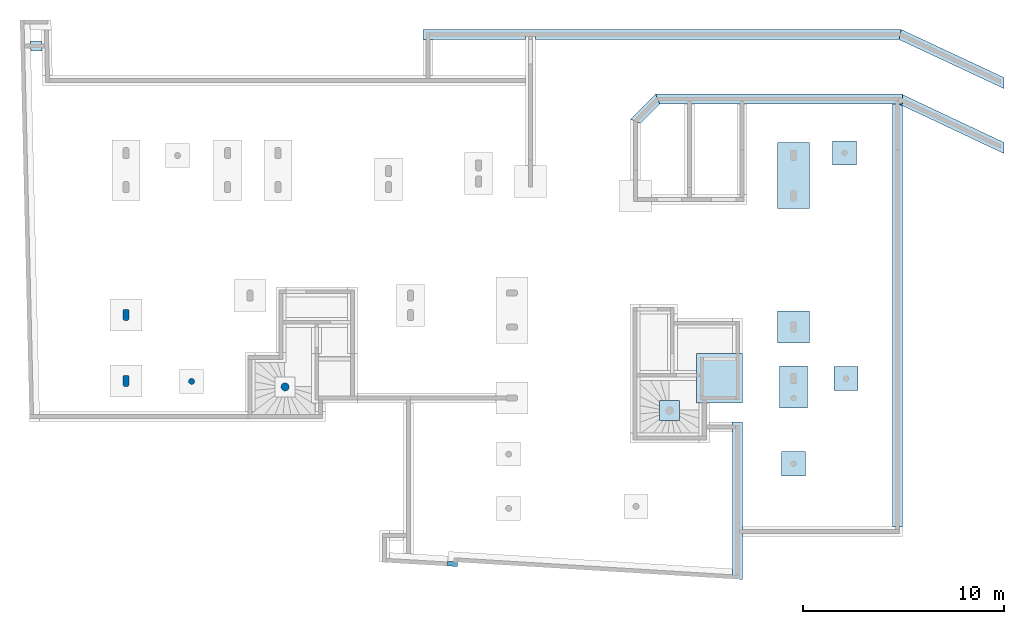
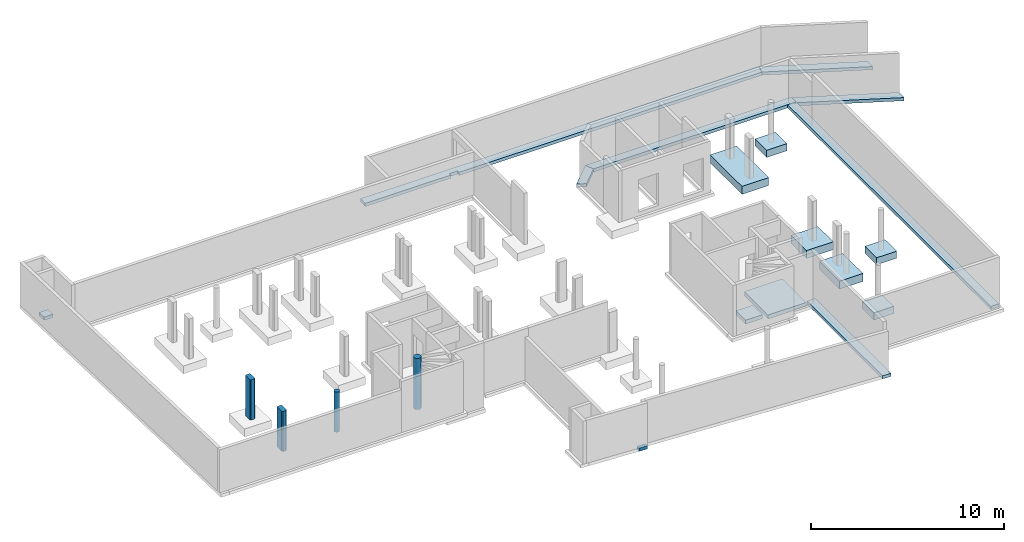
# One storey, part 2 of 6: 17 footings, 4 columns.
"""IFC2X3 building model written with IfcOpenShell, lengths in millimetres."""

from ifc_helpers import new_model, entity, si_unit, converted_unit, frame, frame_2d, origin, origin_with_axes, place, context, subcontext, project, spatial, polyline, circle, outline, extrude, faceted_brep, material, element, save


model = new_model("IFC2X3")

# Units and contexts
model_context = context("Model", 3, precision=1e-05, world=origin())
body_context = subcontext(model_context, "Body", "Model", "MODEL_VIEW")
ifc_project = project(units=[si_unit("LENGTHUNIT", "METRE", prefix="MILLI"), converted_unit("PLANEANGLEUNIT", "DEGREE", entity("IfcPlaneAngleMeasure", 0.0174532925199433), si_unit("PLANEANGLEUNIT", "RADIAN"), dimensions=[0, 0, 0, 0, 0, 0, 0]), si_unit("AREAUNIT", "SQUARE_METRE"), si_unit("VOLUMEUNIT", "CUBIC_METRE")], contexts=[model_context])

# Site, building, storey
site_placement = place(None, origin())
site = spatial("IfcSite", under=ifc_project, at=site_placement, Name="Propriété", CompositionType="ELEMENT")
building_placement = place(site_placement, origin_with_axes())
building = spatial("IfcBuilding", under=site, at=building_placement, Name="Bâtiment", CompositionType="ELEMENT")
storey_placement = place(building_placement, frame((0.0, 0.0, -3300.0), z_axis=(0.0, 0.0, 1.0), x_axis=(1.0, 0.0, 0.0)))
storey = spatial("IfcBuildingStorey", under=building, at=storey_placement, Name="Sous-sol", CompositionType="ELEMENT", Elevation=-3300.0)

# Footings
ifc_material_1 = material(Name="<Unnamed Material>")
footing_1_placement = place(storey_placement, frame((33200.57775641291, 881.9198747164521, -500.0100000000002), z_axis=(0.0, 0.0, 1.0), x_axis=(1.0, 0.0, 0.0)))
element("IfcFooting", 1, at=footing_1_placement, inside=storey, material=ifc_material_1, Name="<Unnamed Element>", PredefinedType="NOTDEFINED", context=body_context, shape_type="Brep", body=[
    faceted_brep([(0.01000000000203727, 2100.01, 0.01000000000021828), (0.01000000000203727, 0.009999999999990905, 0.01000000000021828), (1400.010000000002, 0.009999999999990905, 0.01000000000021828), (1400.010000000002, 2100.01, 0.01000000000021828), (0.01000000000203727, 0.009999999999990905, 500.0100000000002), (0.01000000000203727, 2100.01, 500.0100000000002), (1400.010000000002, 2100.01, 500.0100000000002), (1400.010000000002, 0.009999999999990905, 500.0100000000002), (0.01000000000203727, 0.009999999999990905, 0.01000000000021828), (0.01000000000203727, 2100.01, 0.01000000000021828), (0.01000000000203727, 2100.01, 500.0100000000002), (0.01000000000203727, 0.009999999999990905, 500.0100000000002), (1400.010000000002, 0.009999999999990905, 0.01000000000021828), (0.01000000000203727, 0.009999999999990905, 0.01000000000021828), (0.01000000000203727, 0.009999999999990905, 500.0100000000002), (1400.010000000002, 0.009999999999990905, 500.0100000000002), (1400.010000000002, 2100.01, 0.01000000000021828), (1400.010000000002, 0.009999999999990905, 0.01000000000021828), (1400.010000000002, 0.009999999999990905, 500.0100000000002), (1400.010000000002, 2100.01, 500.0100000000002), (0.01000000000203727, 2100.01, 0.01000000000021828), (1400.010000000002, 2100.01, 0.01000000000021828), (1400.010000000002, 2100.01, 500.0100000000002), (0.01000000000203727, 2100.01, 500.0100000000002)], [[[0, 1, 2, 3]], [[4, 5, 6, 7]], [[8, 9, 10, 11]], [[12, 13, 14, 15]], [[16, 17, 18, 19]], [[20, 21, 22, 23]]], orient=[[False], [False], [False], [False], [False], [False]]),
])
ifc_material_2 = material(Name="<Unnamed Material>")
footing_2_placement = place(storey_placement, frame((35920.5777564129, 1754.41987471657, -450.0100000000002), z_axis=(0.0, 0.0, 1.0), x_axis=(1.0, 0.0, 0.0)))
element("IfcFooting", 2, at=footing_2_placement, inside=storey, material=ifc_material_2, Name="<Unnamed Element>", PredefinedType="NOTDEFINED", context=body_context, shape_type="Brep", body=[
    faceted_brep([(0.01000000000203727, 1200.01, 0.01000000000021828), (0.01000000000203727, 0.009999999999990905, 0.01000000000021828), (1200.010000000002, 0.009999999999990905, 0.01000000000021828), (1200.010000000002, 1200.01, 0.01000000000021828), (0.01000000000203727, 0.009999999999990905, 450.0100000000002), (0.01000000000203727, 1200.01, 450.0100000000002), (1200.010000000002, 1200.01, 450.0100000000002), (1200.010000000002, 0.009999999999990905, 450.0100000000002), (0.01000000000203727, 0.009999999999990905, 0.01000000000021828), (0.01000000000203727, 1200.01, 0.01000000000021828), (0.01000000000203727, 1200.01, 450.0100000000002), (0.01000000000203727, 0.009999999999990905, 450.0100000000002), (1200.010000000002, 0.009999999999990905, 0.01000000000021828), (0.01000000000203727, 0.009999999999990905, 0.01000000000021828), (0.01000000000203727, 0.009999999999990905, 450.0100000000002), (1200.010000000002, 0.009999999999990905, 450.0100000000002), (1200.010000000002, 1200.01, 0.01000000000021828), (1200.010000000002, 0.009999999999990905, 0.01000000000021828), (1200.010000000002, 0.009999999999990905, 450.0100000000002), (1200.010000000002, 1200.01, 450.0100000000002), (0.01000000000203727, 1200.01, 0.01000000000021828), (1200.010000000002, 1200.01, 0.01000000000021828), (1200.010000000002, 1200.01, 450.0100000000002), (0.01000000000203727, 1200.01, 450.0100000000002)], [[[0, 1, 2, 3]], [[4, 5, 6, 7]], [[8, 9, 10, 11]], [[12, 13, 14, 15]], [[16, 17, 18, 19]], [[20, 21, 22, 23]]], orient=[[False], [False], [False], [False], [False], [False]]),
])
ifc_material_3 = material(Name="<Unnamed Material>")
footing_3_placement = place(storey_placement, frame((33100.57775641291, 4129.419874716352, -500.0100000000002), z_axis=(0.0, 0.0, 1.0), x_axis=(1.0, 0.0, 0.0)))
element("IfcFooting", 3, at=footing_3_placement, inside=storey, material=ifc_material_3, Name="<Unnamed Element>", PredefinedType="NOTDEFINED", context=body_context, shape_type="Brep", body=[
    faceted_brep([(0.01000000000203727, 1600.01, 0.01000000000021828), (0.01000000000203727, 0.01000000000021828, 0.01000000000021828), (1600.010000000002, 0.01000000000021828, 0.01000000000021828), (1600.010000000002, 1600.01, 0.01000000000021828), (0.01000000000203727, 0.01000000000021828, 500.0100000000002), (0.01000000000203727, 1600.01, 500.0100000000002), (1600.010000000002, 1600.01, 500.0100000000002), (1600.010000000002, 0.01000000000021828, 500.0100000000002), (0.01000000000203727, 0.01000000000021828, 0.01000000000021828), (0.01000000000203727, 1600.01, 0.01000000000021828), (0.01000000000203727, 1600.01, 500.0100000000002), (0.01000000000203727, 0.01000000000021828, 500.0100000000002), (1600.010000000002, 0.01000000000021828, 0.01000000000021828), (0.01000000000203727, 0.01000000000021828, 0.01000000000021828), (0.01000000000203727, 0.01000000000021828, 500.0100000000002), (1600.010000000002, 0.01000000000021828, 500.0100000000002), (1600.010000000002, 1600.01, 0.01000000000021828), (1600.010000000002, 0.01000000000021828, 0.01000000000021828), (1600.010000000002, 0.01000000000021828, 500.0100000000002), (1600.010000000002, 1600.01, 500.0100000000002), (0.01000000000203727, 1600.01, 0.01000000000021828), (1600.010000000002, 1600.01, 0.01000000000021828), (1600.010000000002, 1600.01, 500.0100000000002), (0.01000000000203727, 1600.01, 500.0100000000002)], [[[0, 1, 2, 3]], [[4, 5, 6, 7]], [[8, 9, 10, 11]], [[12, 13, 14, 15]], [[16, 17, 18, 19]], [[20, 21, 22, 23]]], orient=[[False], [False], [False], [False], [False], [False]]),
])
ifc_material_4 = material(Name="<Unnamed Material>")
footing_4_placement = place(storey_placement, frame((33300.5777564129, -2490.580125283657, -450.0100000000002), z_axis=(0.0, 0.0, 1.0), x_axis=(1.0, 0.0, 0.0)))
element("IfcFooting", 4, at=footing_4_placement, inside=storey, material=ifc_material_4, Name="<Unnamed Element>", PredefinedType="NOTDEFINED", context=body_context, shape_type="Brep", body=[
    faceted_brep([(0.01000000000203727, 1200.01, 0.01000000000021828), (0.01000000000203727, 0.01000000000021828, 0.01000000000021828), (1200.010000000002, 0.01000000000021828, 0.01000000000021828), (1200.010000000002, 1200.01, 0.01000000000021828), (0.01000000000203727, 0.01000000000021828, 450.0100000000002), (0.01000000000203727, 1200.01, 450.0100000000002), (1200.010000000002, 1200.01, 450.0100000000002), (1200.010000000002, 0.01000000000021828, 450.0100000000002), (0.01000000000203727, 0.01000000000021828, 0.01000000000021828), (0.01000000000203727, 1200.01, 0.01000000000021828), (0.01000000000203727, 1200.01, 450.0100000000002), (0.01000000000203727, 0.01000000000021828, 450.0100000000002), (1200.010000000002, 0.01000000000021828, 0.01000000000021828), (0.01000000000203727, 0.01000000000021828, 0.01000000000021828), (0.01000000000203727, 0.01000000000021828, 450.0100000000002), (1200.010000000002, 0.01000000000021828, 450.0100000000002), (1200.010000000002, 1200.01, 0.01000000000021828), (1200.010000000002, 0.01000000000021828, 0.01000000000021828), (1200.010000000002, 0.01000000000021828, 450.0100000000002), (1200.010000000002, 1200.01, 450.0100000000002), (0.01000000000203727, 1200.01, 0.01000000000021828), (1200.010000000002, 1200.01, 0.01000000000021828), (1200.010000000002, 1200.01, 450.0100000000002), (0.01000000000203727, 1200.01, 450.0100000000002)], [[[0, 1, 2, 3]], [[4, 5, 6, 7]], [[8, 9, 10, 11]], [[12, 13, 14, 15]], [[16, 17, 18, 19]], [[20, 21, 22, 23]]], orient=[[False], [False], [False], [False], [False], [False]]),
])
ifc_material_5 = material(Name="<Unnamed Material>")
footing_5_placement = place(storey_placement, frame((35840.5777564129, 13004.41987471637, -450.0100000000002), z_axis=(0.0, 0.0, 1.0), x_axis=(1.0, 0.0, 0.0)))
element("IfcFooting", 5, at=footing_5_placement, inside=storey, material=ifc_material_5, Name="<Unnamed Element>", PredefinedType="NOTDEFINED", context=body_context, shape_type="Brep", body=[
    faceted_brep([(0.01000000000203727, 1200.01, 0.01000000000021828), (0.01000000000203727, 0.01000000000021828, 0.01000000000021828), (1200.010000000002, 0.01000000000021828, 0.01000000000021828), (1200.010000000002, 1200.01, 0.01000000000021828), (0.01000000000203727, 0.01000000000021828, 450.0100000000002), (0.01000000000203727, 1200.01, 450.0100000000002), (1200.010000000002, 1200.01, 450.0100000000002), (1200.010000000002, 0.01000000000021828, 450.0100000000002), (0.01000000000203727, 0.01000000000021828, 0.01000000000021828), (0.01000000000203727, 1200.01, 0.01000000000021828), (0.01000000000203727, 1200.01, 450.0100000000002), (0.01000000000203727, 0.01000000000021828, 450.0100000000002), (1200.010000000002, 0.01000000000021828, 0.01000000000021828), (0.01000000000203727, 0.01000000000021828, 0.01000000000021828), (0.01000000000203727, 0.01000000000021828, 450.0100000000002), (1200.010000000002, 0.01000000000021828, 450.0100000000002), (1200.010000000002, 1200.01, 0.01000000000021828), (1200.010000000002, 0.01000000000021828, 0.01000000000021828), (1200.010000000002, 0.01000000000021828, 450.0100000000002), (1200.010000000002, 1200.01, 450.0100000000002), (0.01000000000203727, 1200.01, 0.01000000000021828), (1200.010000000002, 1200.01, 0.01000000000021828), (1200.010000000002, 1200.01, 450.0100000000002), (0.01000000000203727, 1200.01, 450.0100000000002)], [[[0, 1, 2, 3]], [[4, 5, 6, 7]], [[8, 9, 10, 11]], [[12, 13, 14, 15]], [[16, 17, 18, 19]], [[20, 21, 22, 23]]], orient=[[False], [False], [False], [False], [False], [False]]),
])
ifc_material_6 = material(Name="<Unnamed Material>")
footing_6_placement = place(storey_placement, frame((33100.57775641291, 10819.41987471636, -500.0100000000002), z_axis=(0.0, 0.0, 1.0), x_axis=(1.0, 0.0, 0.0)))
element("IfcFooting", 6, at=footing_6_placement, inside=storey, material=ifc_material_6, Name="<Unnamed Element>", PredefinedType="NOTDEFINED", context=body_context, shape_type="Brep", body=[
    faceted_brep([(0.01000000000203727, 3300.01, 0.01000000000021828), (0.01000000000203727, 0.01000000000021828, 0.01000000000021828), (1600.010000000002, 0.01000000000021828, 0.01000000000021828), (1600.010000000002, 3300.01, 0.01000000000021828), (0.01000000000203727, 0.01000000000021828, 500.0100000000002), (0.01000000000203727, 3300.01, 500.0100000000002), (1600.010000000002, 3300.01, 500.0100000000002), (1600.010000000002, 0.01000000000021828, 500.0100000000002), (0.01000000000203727, 0.01000000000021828, 0.01000000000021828), (0.01000000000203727, 3300.01, 0.01000000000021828), (0.01000000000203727, 3300.01, 500.0100000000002), (0.01000000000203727, 0.01000000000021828, 500.0100000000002), (1600.010000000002, 0.01000000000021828, 0.01000000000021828), (0.01000000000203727, 0.01000000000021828, 0.01000000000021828), (0.01000000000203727, 0.01000000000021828, 500.0100000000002), (1600.010000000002, 0.01000000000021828, 500.0100000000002), (1600.010000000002, 3300.01, 0.01000000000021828), (1600.010000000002, 0.01000000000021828, 0.01000000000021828), (1600.010000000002, 0.01000000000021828, 500.0100000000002), (1600.010000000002, 3300.01, 500.0100000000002), (0.01000000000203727, 3300.01, 0.01000000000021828), (1600.010000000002, 3300.01, 0.01000000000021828), (1600.010000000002, 3300.01, 500.0100000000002), (0.01000000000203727, 3300.01, 500.0100000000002)], [[[0, 1, 2, 3]], [[4, 5, 6, 7]], [[8, 9, 10, 11]], [[12, 13, 14, 15]], [[16, 17, 18, 19]], [[20, 21, 22, 23]]], orient=[[False], [False], [False], [False], [False], [False]]),
])
ifc_material_7 = material(Name="<Unnamed Material>")
footing_7_placement = place(storey_placement, frame((39157.25759679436, 19249.6396210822, -200.0), z_axis=(0.0, 0.0, 1.0), x_axis=(0.9059029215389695, -0.4234854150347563, 0.0)))
element("IfcFooting", 7, at=footing_7_placement, inside=storey, material=ifc_material_7, Name="<Unnamed Element>", PredefinedType="STRIP_FOOTING", context=body_context, shape_type="Brep", body=[
    faceted_brep([(-111.0983731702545, 500.0, 0.0), (0.0, 0.0, 0.0), (5775.792953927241, 0.0, 0.0), (5542.056311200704, 500.0, 0.0), (0.0, 0.0, 200.0), (-111.0983731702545, 500.0, 200.0), (5542.056311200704, 500.0, 200.0), (5775.792953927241, 0.0, 200.0), (0.0, 0.0, 0.0), (-111.0983731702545, 500.0, 0.0), (-111.0983731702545, 500.0, 200.0), (0.0, 0.0, 200.0), (5775.792953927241, 0.0, 0.0), (0.0, 0.0, 0.0), (0.0, 0.0, 200.0), (5775.792953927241, 0.0, 200.0), (5542.056311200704, 500.0, 0.0), (5775.792953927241, 0.0, 0.0), (5775.792953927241, 0.0, 200.0), (5542.056311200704, 500.0, 200.0), (-111.0983731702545, 500.0, 0.0), (5542.056311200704, 500.0, 0.0), (5542.056311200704, 500.0, 200.0), (-111.0983731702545, 500.0, 200.0)], [[[0, 1, 2, 3]], [[4, 5, 6, 7]], [[8, 9, 10, 11]], [[12, 13, 14, 15]], [[16, 17, 18, 19]], [[20, 21, 22, 23]]], orient=[[False], [False], [False], [False], [False], [False]]),
])
ifc_material_8 = material(Name="<Unnamed Material>")
footing_8_placement = place(storey_placement, frame((15430.58775641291, 19249.63931329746, -200.0), z_axis=(0.0, 0.0, 1.0), x_axis=(0.9999999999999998, 1.297210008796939e-08, 0.0)))
element("IfcFooting", 8, at=footing_8_placement, inside=storey, material=ifc_material_8, Name="<Unnamed Element>", PredefinedType="STRIP_FOOTING", context=body_context, shape_type="Brep", body=[
    faceted_brep([(5620.000001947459, 150.1265870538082, 0.0), (5620.000000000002, 0.0, 0.0), (23726.66984038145, 0.0, 0.0), (23837.76821355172, 499.9999999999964, 0.0), (6.486050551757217e-06, 500.0, 0.0), (0.0, 0.0, 0.0), (5120.000000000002, 0.0, 0.0), (5120.000001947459, 150.1265935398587, 0.0), (5620.000000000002, 0.0, 200.0), (5620.000001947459, 150.1265870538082, 200.0), (5120.000001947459, 150.1265935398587, 200.0), (5120.000000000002, 0.0, 200.0), (0.0, 0.0, 200.0), (6.486050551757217e-06, 500.0, 200.0), (23837.76821355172, 499.9999999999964, 200.0), (23726.66984038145, 0.0, 200.0), (5620.000000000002, 0.0, 0.0), (5620.000001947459, 150.1265870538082, 0.0), (5620.000001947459, 150.1265870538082, 200.0), (5620.000000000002, 0.0, 200.0), (23726.66984038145, 0.0, 0.0), (5620.000000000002, 0.0, 0.0), (5620.000000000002, 0.0, 200.0), (23726.66984038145, 0.0, 200.0), (23837.76821355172, 499.9999999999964, 0.0), (23726.66984038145, 0.0, 0.0), (23726.66984038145, 0.0, 200.0), (23837.76821355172, 499.9999999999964, 200.0), (6.486050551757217e-06, 500.0, 0.0), (23837.76821355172, 499.9999999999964, 0.0), (23837.76821355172, 499.9999999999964, 200.0), (6.486050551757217e-06, 500.0, 200.0), (0.0, 0.0, 0.0), (6.486050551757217e-06, 500.0, 0.0), (6.486050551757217e-06, 500.0, 200.0), (0.0, 0.0, 200.0), (5120.000000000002, 0.0, 0.0), (0.0, 0.0, 0.0), (0.0, 0.0, 200.0), (5120.000000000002, 0.0, 200.0), (5120.000001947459, 150.1265935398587, 0.0), (5120.000000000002, 0.0, 0.0), (5120.000000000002, 0.0, 200.0), (5120.000001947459, 150.1265935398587, 200.0), (5620.000001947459, 150.1265870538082, 0.0), (5120.000001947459, 150.1265935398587, 0.0), (5120.000001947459, 150.1265935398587, 200.0), (5620.000001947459, 150.1265870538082, 200.0)], [[[0, 1, 2, 3, 4, 5, 6, 7]], [[8, 9, 10, 11, 12, 13, 14, 15]], [[16, 17, 18, 19]], [[20, 21, 22, 23]], [[24, 25, 26, 27]], [[28, 29, 30, 31]], [[32, 33, 34, 35]], [[36, 37, 38, 39]], [[40, 41, 42, 43]], [[44, 45, 46, 47]]], orient=[[False], [False], [False], [False], [False], [False], [False], [False], [False], [False]]),
])
ifc_material_9 = material(Name="<Unnamed Material>")
footing_9_placement = place(storey_placement, frame((29070.57775641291, 1134.419874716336, -1100.01), z_axis=(0.0, 0.0, 1.0), x_axis=(1.0, 0.0, 0.0)))
element("IfcFooting", 9, at=footing_9_placement, inside=storey, material=ifc_material_9, Name="<Unnamed Element>", PredefinedType="NOTDEFINED", context=body_context, shape_type="Brep", body=[
    faceted_brep([(0.00999999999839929, 2464.451494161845, 0.01000000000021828), (0.00999999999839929, 0.01000000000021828, 0.01000000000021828), (2290.009999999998, 0.01000000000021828, 0.01000000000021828), (2290.009999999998, 2464.451494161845, 0.01000000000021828), (0.00999999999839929, 0.01000000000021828, 250.0100000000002), (0.00999999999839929, 2464.451494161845, 250.0100000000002), (2290.009999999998, 2464.451494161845, 250.0100000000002), (2290.009999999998, 0.01000000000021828, 250.0100000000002), (0.00999999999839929, 0.01000000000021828, 0.01000000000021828), (0.00999999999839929, 2464.451494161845, 0.01000000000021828), (0.00999999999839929, 2464.451494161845, 250.0100000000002), (0.00999999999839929, 0.01000000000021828, 250.0100000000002), (2290.009999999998, 0.01000000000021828, 0.01000000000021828), (0.00999999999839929, 0.01000000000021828, 0.01000000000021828), (0.00999999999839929, 0.01000000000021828, 250.0100000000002), (2290.009999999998, 0.01000000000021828, 250.0100000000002), (2290.009999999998, 2464.451494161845, 0.01000000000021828), (2290.009999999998, 0.01000000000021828, 0.01000000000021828), (2290.009999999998, 0.01000000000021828, 250.0100000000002), (2290.009999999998, 2464.451494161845, 250.0100000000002), (0.00999999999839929, 2464.451494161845, 0.01000000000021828), (2290.009999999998, 2464.451494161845, 0.01000000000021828), (2290.009999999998, 2464.451494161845, 250.0100000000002), (0.00999999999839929, 2464.451494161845, 250.0100000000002)], [[[0, 1, 2, 3]], [[4, 5, 6, 7]], [[8, 9, 10, 11]], [[12, 13, 14, 15]], [[16, 17, 18, 19]], [[20, 21, 22, 23]]], orient=[[False], [False], [False], [False], [False], [False]]),
])
ifc_material_10 = material(Name="<Unnamed Material>")
footing_10_placement = place(storey_placement, frame((30850.58775641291, 184.4298747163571, -200.0), z_axis=(0.0, 0.0, 1.0), x_axis=(0.0, -1.0, 0.0)))
element("IfcFooting", 10, at=footing_10_placement, inside=storey, material=ifc_material_10, Name="<Unnamed Element>", PredefinedType="STRIP_FOOTING", context=body_context, shape_type="Brep", body=[
    faceted_brep([(6.821210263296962e-13, 500.0, 0.0), (0.0, 0.0, 0.0), (7810.695102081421, 0.0, 0.0), (7841.230592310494, 500.0, 0.0), (0.0, 0.0, 200.0), (6.821210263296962e-13, 500.0, 200.0), (7841.230592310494, 500.0, 200.0), (7810.695102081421, 0.0, 200.0), (0.0, 0.0, 0.0), (6.821210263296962e-13, 500.0, 0.0), (6.821210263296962e-13, 500.0, 200.0), (0.0, 0.0, 200.0), (7810.695102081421, 0.0, 0.0), (0.0, 0.0, 0.0), (0.0, 0.0, 200.0), (7810.695102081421, 0.0, 200.0), (7841.230592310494, 500.0, 0.0), (7810.695102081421, 0.0, 0.0), (7810.695102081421, 0.0, 200.0), (7841.230592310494, 500.0, 200.0), (6.821210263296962e-13, 500.0, 0.0), (7841.230592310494, 500.0, 0.0), (7841.230592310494, 500.0, 200.0), (6.821210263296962e-13, 500.0, 200.0)], [[[0, 1, 2, 3]], [[4, 5, 6, 7]], [[8, 9, 10, 11]], [[12, 13, 14, 15]], [[16, 17, 18, 19]], [[20, 21, 22, 23]]], orient=[[False], [False], [False], [False], [False], [False]]),
])
ifc_material_11 = material(Name="<Unnamed Material>")
footing_11_placement = place(storey_placement, frame((17150.03176965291, -7016.173644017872, -200.0), z_axis=(0.0, 0.0, 1.0), x_axis=(0.05844308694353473, 0.9982907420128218, 0.0)))
element("IfcFooting", 11, at=footing_11_placement, inside=storey, material=ifc_material_11, Name="<Unnamed Element>", PredefinedType="STRIP_FOOTING", context=body_context, shape_type="Brep", body=[
    faceted_brep([(-9.094947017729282e-13, 500.0, 0.0), (0.0, 0.0, 0.0), (226.1941009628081, 0.0, 0.0), (227.4535122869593, 500.0, 0.0), (0.0, 0.0, 200.0), (-9.094947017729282e-13, 500.0, 200.0), (227.4535122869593, 500.0, 200.0), (226.1941009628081, 0.0, 200.0), (0.0, 0.0, 0.0), (-9.094947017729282e-13, 500.0, 0.0), (-9.094947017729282e-13, 500.0, 200.0), (0.0, 0.0, 200.0), (226.1941009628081, 0.0, 0.0), (0.0, 0.0, 0.0), (0.0, 0.0, 200.0), (226.1941009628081, 0.0, 200.0), (227.4535122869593, 500.0, 0.0), (226.1941009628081, 0.0, 0.0), (226.1941009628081, 0.0, 200.0), (227.4535122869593, 500.0, 200.0), (-9.094947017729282e-13, 500.0, 0.0), (227.4535122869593, 500.0, 0.0), (227.4535122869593, 500.0, 200.0), (-9.094947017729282e-13, 500.0, 200.0)], [[[0, 1, 2, 3]], [[4, 5, 6, 7]], [[8, 9, 10, 11]], [[12, 13, 14, 15]], [[16, 17, 18, 19]], [[20, 21, 22, 23]]], orient=[[False], [False], [False], [False], [False], [False]]),
])
ifc_material_12 = material(Name="<Unnamed Material>")
footing_12_placement = place(storey_placement, frame((39340.58775641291, 16534.42987471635, -200.0), z_axis=(0.0, 0.0, 1.0), x_axis=(-0.9999999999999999, 2.954109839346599e-16, 0.0)))
element("IfcFooting", 12, at=footing_12_placement, inside=storey, material=ifc_material_12, Name="<Unnamed Element>", PredefinedType="STRIP_FOOTING", context=body_context, shape_type="Brep", body=[
    faceted_brep([(0.0, 499.9999999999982, 0.0), (0.0, 0.0, 0.0), (12314.97474683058, 0.0, 0.0), (12107.86796564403, 499.9999999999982, 0.0), (0.0, 0.0, 200.0), (0.0, 499.9999999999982, 200.0), (12107.86796564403, 499.9999999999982, 200.0), (12314.97474683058, 0.0, 200.0), (0.0, 0.0, 0.0), (0.0, 499.9999999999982, 0.0), (0.0, 499.9999999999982, 200.0), (0.0, 0.0, 200.0), (12314.97474683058, 0.0, 0.0), (0.0, 0.0, 0.0), (0.0, 0.0, 200.0), (12314.97474683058, 0.0, 200.0), (12107.86796564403, 499.9999999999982, 0.0), (12314.97474683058, 0.0, 0.0), (12314.97474683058, 0.0, 200.0), (12107.86796564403, 499.9999999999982, 200.0), (0.0, 499.9999999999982, 0.0), (12107.86796564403, 499.9999999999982, 0.0), (12107.86796564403, 499.9999999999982, 200.0), (0.0, 499.9999999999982, 200.0)], [[[0, 1, 2, 3]], [[4, 5, 6, 7]], [[8, 9, 10, 11]], [[12, 13, 14, 15]], [[16, 17, 18, 19]], [[20, 21, 22, 23]]], orient=[[False], [False], [False], [False], [False], [False]]),
])
ifc_material_13 = material(Name="<Unnamed Material>")
footing_13_placement = place(storey_placement, frame((39340.58775641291, -5015.570125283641, -200.0), z_axis=(0.0, 0.0, 1.0), x_axis=(0.0, 1.0, 0.0)))
element("IfcFooting", 13, at=footing_13_placement, inside=storey, material=ifc_material_13, Name="<Unnamed Element>", PredefinedType="STRIP_FOOTING", context=body_context, shape_type="Brep", body=[
    faceted_brep([(0.0, 500.0, 0.0), (0.0, 0.0, 0.0), (20963.41886110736, 0.0, 0.0), (21049.99999999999, 183.594941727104, 0.0), (21049.99999999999, 500.0, 0.0), (0.0, 0.0, 200.0), (0.0, 500.0, 200.0), (21049.99999999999, 500.0, 200.0), (21049.99999999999, 183.594941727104, 200.0), (20963.41886110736, 0.0, 200.0), (0.0, 0.0, 0.0), (0.0, 500.0, 0.0), (0.0, 500.0, 200.0), (0.0, 0.0, 200.0), (20963.41886110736, 0.0, 0.0), (0.0, 0.0, 0.0), (0.0, 0.0, 200.0), (20963.41886110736, 0.0, 200.0), (21049.99999999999, 183.594941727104, 0.0), (20963.41886110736, 0.0, 0.0), (20963.41886110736, 0.0, 200.0), (21049.99999999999, 183.594941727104, 200.0), (21049.99999999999, 500.0, 0.0), (21049.99999999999, 183.594941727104, 0.0), (21049.99999999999, 183.594941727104, 200.0), (21049.99999999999, 500.0, 200.0), (0.0, 500.0, 0.0), (21049.99999999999, 500.0, 0.0), (21049.99999999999, 500.0, 200.0), (0.0, 500.0, 200.0)], [[[0, 1, 2, 3, 4]], [[5, 6, 7, 8, 9]], [[10, 11, 12, 13]], [[14, 15, 16, 17]], [[18, 19, 20, 21]], [[22, 23, 24, 25]], [[26, 27, 28, 29]]], orient=[[False], [False], [False], [False], [False], [False], [False]]),
])
ifc_material_14 = material(Name="<Unnamed Material>")
footing_14_placement = place(storey_placement, frame((27025.61300958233, 16534.42987471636, -200.0), z_axis=(0.0, 0.0, 1.0), x_axis=(-0.7071067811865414, -0.7071067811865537, 0.0)))
element("IfcFooting", 14, at=footing_14_placement, inside=storey, material=ifc_material_14, Name="<Unnamed Element>", PredefinedType="STRIP_FOOTING", context=body_context, shape_type="Brep", body=[
    faceted_brep([(207.1067811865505, 500.0, 0.0), (0.0, 0.0, 0.0), (1774.873734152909, 0.0, 0.0), (1567.766952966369, 500.0, 0.0), (0.0, 0.0, 200.0), (207.1067811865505, 500.0, 200.0), (1567.766952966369, 500.0, 200.0), (1774.873734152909, 0.0, 200.0), (0.0, 0.0, 0.0), (207.1067811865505, 500.0, 0.0), (207.1067811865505, 500.0, 200.0), (0.0, 0.0, 200.0), (1774.873734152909, 0.0, 0.0), (0.0, 0.0, 0.0), (0.0, 0.0, 200.0), (1774.873734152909, 0.0, 200.0), (1567.766952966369, 500.0, 0.0), (1774.873734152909, 0.0, 0.0), (1774.873734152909, 0.0, 200.0), (1567.766952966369, 500.0, 200.0), (207.1067811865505, 500.0, 0.0), (1567.766952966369, 500.0, 0.0), (1567.766952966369, 500.0, 200.0), (207.1067811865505, 500.0, 200.0)], [[[0, 1, 2, 3]], [[4, 5, 6, 7]], [[8, 9, 10, 11]], [[12, 13, 14, 15]], [[16, 17, 18, 19]], [[20, 21, 22, 23]]], orient=[[False], [False], [False], [False], [False], [False]]),
])
ifc_material_15 = material(Name="<Unnamed Material>")
footing_15_placement = place(storey_placement, frame((39156.99281468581, 16034.42987471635, -200.0), z_axis=(0.0, 0.0, 1.0), x_axis=(0.904470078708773, -0.4265370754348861, 0.0)))
element("IfcFooting", 15, at=footing_15_placement, inside=storey, material=ifc_material_15, Name="<Unnamed Element>", PredefinedType="STRIP_FOOTING", context=body_context, shape_type="Brep", body=[
    faceted_brep([(166.0561313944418, 78.31004950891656, 0.0), (0.0, 0.0, 0.0), (5785.235594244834, 0.0, 0.0), (5549.441682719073, 500.0000000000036, 0.0), (-32.80771436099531, 500.0, 0.0), (0.0, 0.0, 200.0), (166.0561313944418, 78.31004950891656, 200.0), (-32.80771436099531, 500.0, 200.0), (5549.441682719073, 500.0000000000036, 200.0), (5785.235594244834, 0.0, 200.0), (0.0, 0.0, 0.0), (166.0561313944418, 78.31004950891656, 0.0), (166.0561313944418, 78.31004950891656, 200.0), (0.0, 0.0, 200.0), (5785.235594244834, 0.0, 0.0), (0.0, 0.0, 0.0), (0.0, 0.0, 200.0), (5785.235594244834, 0.0, 200.0), (5549.441682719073, 500.0000000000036, 0.0), (5785.235594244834, 0.0, 0.0), (5785.235594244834, 0.0, 200.0), (5549.441682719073, 500.0000000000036, 200.0), (-32.80771436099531, 500.0, 0.0), (5549.441682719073, 500.0000000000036, 0.0), (5549.441682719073, 500.0000000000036, 200.0), (-32.80771436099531, 500.0, 200.0), (166.0561313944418, 78.31004950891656, 0.0), (-32.80771436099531, 500.0, 0.0), (-32.80771436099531, 500.0, 200.0), (166.0561313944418, 78.31004950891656, 200.0)], [[[0, 1, 2, 3, 4]], [[5, 6, 7, 8, 9]], [[10, 11, 12, 13]], [[14, 15, 16, 17]], [[18, 19, 20, 21]], [[22, 23, 24, 25]], [[26, 27, 28, 29]]], orient=[[False], [False], [False], [False], [False], [False], [False]]),
])
ifc_material_16 = material(Name="<Unnamed Material>")
footing_16_placement = place(storey_placement, frame((-3575.155856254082, 19173.90173189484, -200.0), z_axis=(0.0, 0.0, 1.0), x_axis=(-1.0, 1.322514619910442e-14, 0.0)))
element("IfcFooting", 16, at=footing_16_placement, inside=storey, material=ifc_material_16, Name="<Unnamed Element>", PredefinedType="STRIP_FOOTING", context=body_context, shape_type="Brep", body=[
    faceted_brep([(-12.09316018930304, 500.0, 0.0), (0.0, 0.0, 0.0), (550.160845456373, 0.0, 0.0), (538.0676852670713, 500.0, 0.0), (0.0, 0.0, 200.0), (-12.09316018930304, 500.0, 200.0), (538.0676852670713, 500.0, 200.0), (550.160845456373, 0.0, 200.0), (0.0, 0.0, 0.0), (-12.09316018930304, 500.0, 0.0), (-12.09316018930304, 500.0, 200.0), (0.0, 0.0, 200.0), (550.160845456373, 0.0, 0.0), (0.0, 0.0, 0.0), (0.0, 0.0, 200.0), (550.160845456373, 0.0, 200.0), (538.0676852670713, 500.0, 0.0), (550.160845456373, 0.0, 0.0), (550.160845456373, 0.0, 200.0), (538.0676852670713, 500.0, 200.0), (-12.09316018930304, 500.0, 0.0), (538.0676852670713, 500.0, 0.0), (538.0676852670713, 500.0, 200.0), (-12.09316018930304, 500.0, 200.0)], [[[0, 1, 2, 3]], [[4, 5, 6, 7]], [[8, 9, 10, 11]], [[12, 13, 14, 15]], [[16, 17, 18, 19]], [[20, 21, 22, 23]]], orient=[[False], [False], [False], [False], [False], [False]]),
])
ifc_material_17 = material(Name="<Unnamed Material>")
footing_17_placement = place(storey_placement, frame((27225.57775641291, 259.4198747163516, -250.0100000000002), z_axis=(0.0, 0.0, 1.0), x_axis=(1.0, 0.0, 0.0)))
element("IfcFooting", 17, at=footing_17_placement, inside=storey, material=ifc_material_17, Name="<Unnamed Element>", PredefinedType="NOTDEFINED", context=body_context, shape_type="Brep", body=[
    faceted_brep([(0.00999999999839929, 1000.01, 0.01000000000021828), (0.00999999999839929, 0.009999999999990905, 0.01000000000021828), (1000.009999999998, 0.009999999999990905, 0.01000000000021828), (1000.009999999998, 1000.01, 0.01000000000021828), (0.00999999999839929, 0.009999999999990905, 250.0100000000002), (0.00999999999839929, 1000.01, 250.0100000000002), (1000.009999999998, 1000.01, 250.0100000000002), (1000.009999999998, 0.009999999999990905, 250.0100000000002), (0.00999999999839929, 0.009999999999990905, 0.01000000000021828), (0.00999999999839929, 1000.01, 0.01000000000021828), (0.00999999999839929, 1000.01, 250.0100000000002), (0.00999999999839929, 0.009999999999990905, 250.0100000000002), (1000.009999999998, 0.009999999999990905, 0.01000000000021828), (0.00999999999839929, 0.009999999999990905, 0.01000000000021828), (0.00999999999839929, 0.009999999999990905, 250.0100000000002), (1000.009999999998, 0.009999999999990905, 250.0100000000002), (1000.009999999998, 1000.01, 0.01000000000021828), (1000.009999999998, 0.009999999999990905, 0.01000000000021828), (1000.009999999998, 0.009999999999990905, 250.0100000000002), (1000.009999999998, 1000.01, 250.0100000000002), (0.00999999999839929, 1000.01, 0.01000000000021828), (1000.009999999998, 1000.01, 0.01000000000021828), (1000.009999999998, 1000.01, 250.0100000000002), (0.00999999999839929, 1000.01, 250.0100000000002)], [[[0, 1, 2, 3]], [[4, 5, 6, 7]], [[8, 9, 10, 11]], [[12, 13, 14, 15]], [[16, 17, 18, 19]], [[20, 21, 22, 23]]], orient=[[False], [False], [False], [False], [False], [False]]),
])

# Columns
ifc_material_18 = material(Name="<Unnamed Material>")
column_1_placement = place(storey_placement, frame((3751.206901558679, 2065.049019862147, 0.0), z_axis=(0.0, 0.0, 1.0), x_axis=(1.0, 0.0, 0.0)))
element("IfcColumn", 18, at=column_1_placement, inside=storey, material=ifc_material_18, Name="<Unnamed Element>", context=body_context, shape_type="SweptSolid", body=[
    extrude(circle(Radius=150.0000000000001, at=frame_2d((149.3808548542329, 149.3808548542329), x_axis=(1.0, 0.0))), origin_with_axes(), (0.0, 0.0, 1.0), 2540.0),
])
ifc_material_19 = material(Name="<Unnamed Material>")
column_2_placement = place(storey_placement, frame((480.5877564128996, 1964.429874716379, 0.0), z_axis=(0.0, 0.0, 1.0), x_axis=(1.0, 0.0, 0.0)))
element("IfcColumn", 19, at=column_2_placement, inside=storey, material=ifc_material_19, Name="<Unnamed Element>", context=body_context, shape_type="SweptSolid", body=[
    extrude(outline(polyline([(250.0, 0.0), (300.0, 50.0), (300.0, 500.0), (250.0, 550.0), (50.0, 550.0), (0.0, 500.0), (0.0, 50.0), (50.0, 0.0), (250.0, 0.0)])), origin_with_axes(), (0.0, 0.0, 1.0), 2540.0),
])
ifc_material_20 = material(Name="<Unnamed Material>")
column_3_placement = place(storey_placement, frame((480.5877564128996, 5249.762767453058, 0.0), z_axis=(0.0, 0.0, 1.0), x_axis=(1.0, 0.0, 0.0)))
element("IfcColumn", 20, at=column_3_placement, inside=storey, material=ifc_material_20, Name="<Unnamed Element>", context=body_context, shape_type="SweptSolid", body=[
    extrude(outline(polyline([(250.0, 0.0), (300.0, 50.0), (300.0, 500.0), (250.0, 550.0), (50.0, 550.0), (0.0, 500.0), (0.0, 50.0), (50.0, 0.0), (250.0, 0.0)])), origin_with_axes(), (0.0, 0.0, 1.0), 2540.0),
])
ifc_material_21 = material(Name="<Unnamed Material>")
column_4_placement = place(storey_placement, frame((8361.41328327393, 1739.11402307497, 0.0), z_axis=(0.0, 0.0, 1.0), x_axis=(1.0, 0.0, 0.0)))
element("IfcColumn", 21, at=column_4_placement, inside=storey, material=ifc_material_21, Name="<Unnamed Element>", context=body_context, shape_type="SweptSolid", body=[
    extrude(circle(Radius=200.0000000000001, at=frame_2d((199.1744731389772, 199.174473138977), x_axis=(1.0, 0.0))), origin_with_axes(), (0.0, 0.0, 1.0), 3240.0),
])

save(model, "model.ifc")
